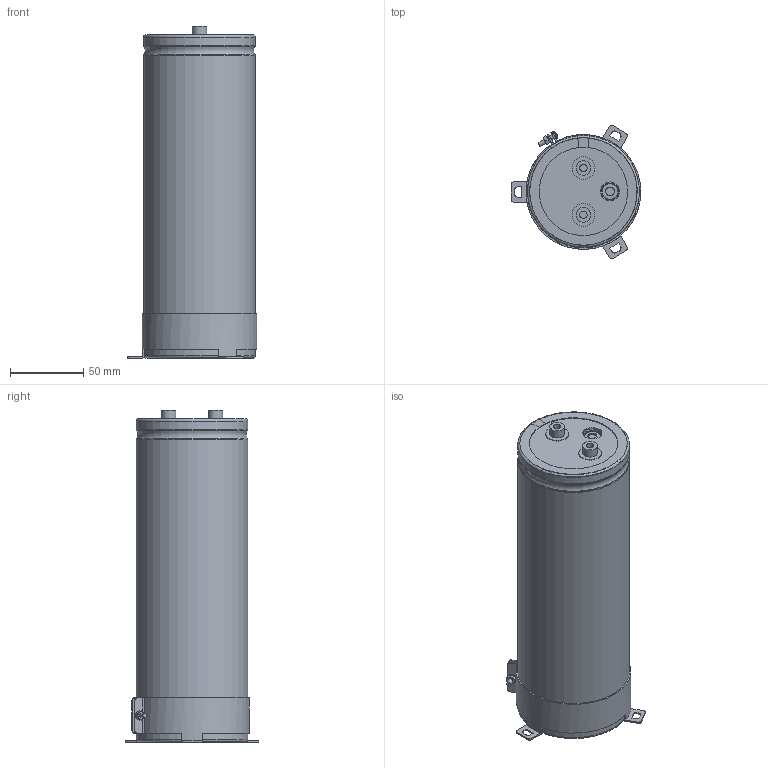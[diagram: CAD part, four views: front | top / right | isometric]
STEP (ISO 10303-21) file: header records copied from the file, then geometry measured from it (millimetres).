
FILE_DESCRIPTION(/* description */ (''),/* implementation_level */ '2;1');
FILE_NAME(/* name */ '76.2x220_Screw.stp',/* time_stamp */ '2017-09-17T13:42:05+09:00',/* author */ (''),/* organization */ (''),/* preprocessor_version */ 'ST-DEVELOPER v16',/* originating_system */ 'SIEMENS PLM Software NX 11.0',/* authorisation */ '');
FILE_SCHEMA (('AUTOMOTIVE_DESIGN { 1 0 10303 214 3 1 1 1 }'));
Length unit declared in the file: millimetre
Products named in the file (1): 76.2x220_Screw
Bounding box: 88.3 x 90.75 x 226 mm (x, y, z)
Volume: 1005667.4 mm3; surface area: 187566.5 mm2
Topology: 9 solids, 9 shells, 259 faces, 642 edges, 413 vertices
Faces by surface type: plane 112, cylinder 66, torus 49, cone 31, sphere 1
Full cylindrical faces by diameter (mm): 3 x5, 5 x2, 5.5 x2, 6 x4, 8 x1, 10 x2, 13 x2, 15.5 x2, 75 x2
Entity records: 8534 total; most frequent: CARTESIAN_POINT 2182, DIRECTION 1296, ORIENTED_EDGE 1214, EDGE_CURVE 607, AXIS2_PLACEMENT_3D 541, VERTEX_POINT 408, EDGE_LOOP 317, CIRCLE 281
